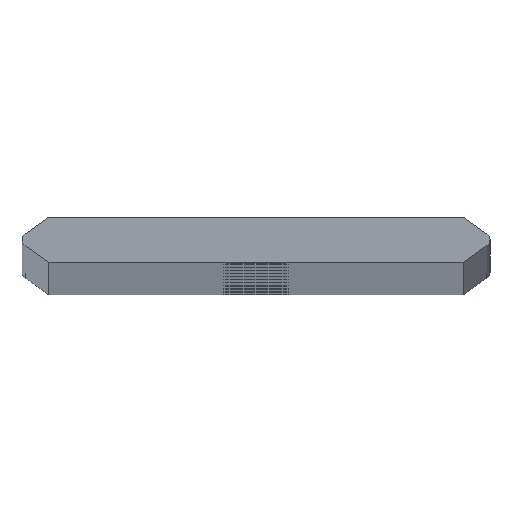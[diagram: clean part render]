
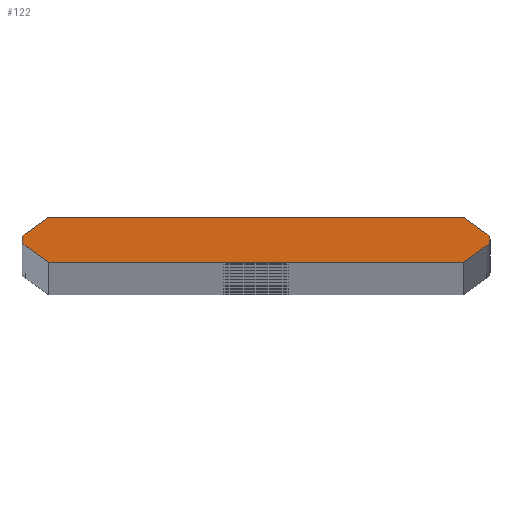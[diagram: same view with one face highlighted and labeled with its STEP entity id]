
A CAD part, top view. The second image highlights one B-rep face of the part: STEP entity #122.
In plain terms, the highlighted planar face has unit normal (0, 0, 1).
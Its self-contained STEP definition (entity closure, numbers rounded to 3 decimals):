
#122=ADVANCED_FACE('',(#226),#227,.T.);
#226=FACE_OUTER_BOUND('',#382,.T.);
#227=PLANE('',#383);
#382=EDGE_LOOP('',(#773,#774,#775,#776,#777,#778,#779,#780,#781,#782));
#383=AXIS2_PLACEMENT_3D('',#783,#784,#785);
#773=ORIENTED_EDGE('',*,*,#941,.T.);
#774=ORIENTED_EDGE('',*,*,#1078,.T.);
#775=ORIENTED_EDGE('',*,*,#1079,.F.);
#776=ORIENTED_EDGE('',*,*,#1080,.F.);
#777=ORIENTED_EDGE('',*,*,#1081,.F.);
#778=ORIENTED_EDGE('',*,*,#937,.T.);
#779=ORIENTED_EDGE('',*,*,#1082,.T.);
#780=ORIENTED_EDGE('',*,*,#1083,.F.);
#781=ORIENTED_EDGE('',*,*,#1084,.F.);
#782=ORIENTED_EDGE('',*,*,#1085,.F.);
#783=CARTESIAN_POINT('',(0.,0.,1976.0));
#784=DIRECTION('',(0.0,0.0,1.0));
#785=DIRECTION('',(1.0,0.0,0.0));
#937=EDGE_CURVE('',#1101,#1098,#1102,.T.);
#941=EDGE_CURVE('',#1109,#1106,#1110,.T.);
#1078=EDGE_CURVE('',#1106,#1336,#1338,.T.);
#1079=EDGE_CURVE('',#1339,#1336,#1340,.T.);
#1080=EDGE_CURVE('',#1341,#1339,#1342,.T.);
#1081=EDGE_CURVE('',#1101,#1341,#1343,.T.);
#1082=EDGE_CURVE('',#1098,#1344,#1345,.T.);
#1083=EDGE_CURVE('',#1346,#1344,#1347,.T.);
#1084=EDGE_CURVE('',#1348,#1346,#1349,.T.);
#1085=EDGE_CURVE('',#1109,#1348,#1350,.T.);
#1098=VERTEX_POINT('',#1368);
#1101=VERTEX_POINT('',#1372);
#1102=CIRCLE('',#1373,0.76);
#1106=VERTEX_POINT('',#1378);
#1109=VERTEX_POINT('',#1382);
#1110=CIRCLE('',#1383,0.76);
#1336=VERTEX_POINT('',#1654);
#1338=CIRCLE('',#1657,0.76);
#1339=VERTEX_POINT('',#1658);
#1340=LINE('',#1659,#1660);
#1341=VERTEX_POINT('',#1661);
#1342=LINE('',#1662,#1663);
#1343=LINE('',#1664,#1665);
#1344=VERTEX_POINT('',#1666);
#1345=CIRCLE('',#1667,0.76);
#1346=VERTEX_POINT('',#1668);
#1347=LINE('',#1669,#1670);
#1348=VERTEX_POINT('',#1671);
#1349=LINE('',#1672,#1673);
#1350=LINE('',#1674,#1675);
#1368=CARTESIAN_POINT('',(24.845,0.,1976.0));
#1372=CARTESIAN_POINT('',(24.524,-0.62,1976.0));
#1373=AXIS2_PLACEMENT_3D('',#1705,#1706,#1707);
#1378=CARTESIAN_POINT('',(-24.845,0.,1976.0));
#1382=CARTESIAN_POINT('',(-24.524,0.62,1976.0));
#1383=AXIS2_PLACEMENT_3D('',#1713,#1714,#1715);
#1654=CARTESIAN_POINT('',(-24.524,-0.62,1976.0));
#1657=AXIS2_PLACEMENT_3D('',#2032,#2033,#2034);
#1658=CARTESIAN_POINT('',(-21.997,-2.39,1976.0));
#1659=CARTESIAN_POINT('',(-25.41,0.,1976.0));
#1660=VECTOR('',#2035,1.0);
#1661=CARTESIAN_POINT('',(21.997,-2.39,1976.0));
#1662=CARTESIAN_POINT('',(21.997,-2.39,1976.0));
#1663=VECTOR('',#2036,1.0);
#1664=CARTESIAN_POINT('',(25.41,0.0,1976.0));
#1665=VECTOR('',#2037,1.0);
#1666=CARTESIAN_POINT('',(24.524,0.62,1976.0));
#1667=AXIS2_PLACEMENT_3D('',#2038,#2039,#2040);
#1668=CARTESIAN_POINT('',(21.997,2.39,1976.0));
#1669=CARTESIAN_POINT('',(25.41,0.0,1976.0));
#1670=VECTOR('',#2041,1.0);
#1671=CARTESIAN_POINT('',(-21.997,2.39,1976.0));
#1672=CARTESIAN_POINT('',(-21.997,2.39,1976.0));
#1673=VECTOR('',#2042,1.0);
#1674=CARTESIAN_POINT('',(-25.41,0.,1976.0));
#1675=VECTOR('',#2043,1.0);
#1705=CARTESIAN_POINT('',(24.085,0.0,1976.0));
#1706=DIRECTION('',(0.0,0.0,1.0));
#1707=DIRECTION('',(1.0,0.0,0.0));
#1713=CARTESIAN_POINT('',(-24.085,0.,1976.0));
#1714=DIRECTION('',(0.0,0.0,1.0));
#1715=DIRECTION('',(-1.0,0.,0.0));
#2032=CARTESIAN_POINT('',(-24.085,0.,1976.0));
#2033=DIRECTION('',(0.0,0.0,1.0));
#2034=DIRECTION('',(-1.0,0.,0.0));
#2035=DIRECTION('',(-0.819,0.574,0.0));
#2036=DIRECTION('',(-1.0,0.,0.0));
#2037=DIRECTION('',(-0.819,-0.574,0.0));
#2038=CARTESIAN_POINT('',(24.085,0.0,1976.0));
#2039=DIRECTION('',(0.0,0.0,1.0));
#2040=DIRECTION('',(1.0,0.0,0.0));
#2041=DIRECTION('',(0.819,-0.574,0.0));
#2042=DIRECTION('',(1.0,0.,0.0));
#2043=DIRECTION('',(0.819,0.574,0.0));
